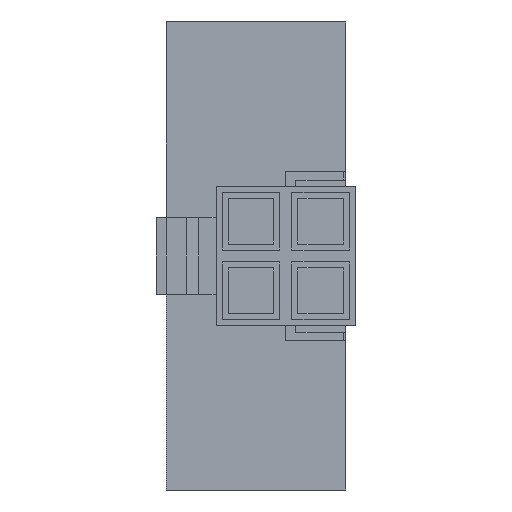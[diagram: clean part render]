
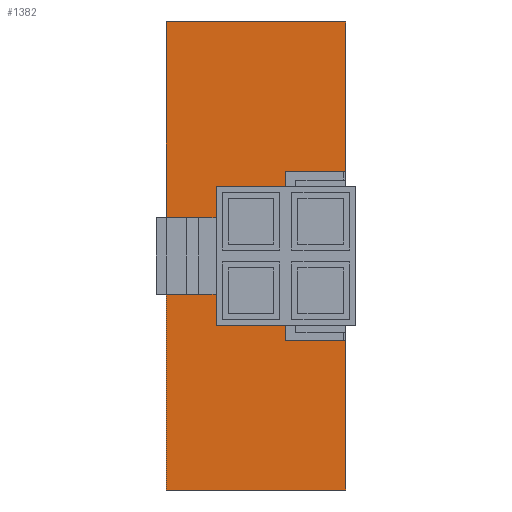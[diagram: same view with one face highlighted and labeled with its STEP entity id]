
A CAD part, left-side view. The second image highlights one B-rep face of the part: STEP entity #1382.
In plain terms, the highlighted planar face has unit normal (-1, 0, 0).
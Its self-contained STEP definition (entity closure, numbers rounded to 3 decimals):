
#67 = CARTESIAN_POINT ( 'NONE',  ( -20., 9., 11.75 ) ) ;
#141 = VERTEX_POINT ( 'NONE', #67 ) ;
#173 = CARTESIAN_POINT ( 'NONE',  ( -20., 9., 11.75 ) ) ;
#242 = CARTESIAN_POINT ( 'NONE',  ( -20., 0., 11.75 ) ) ;
#245 = AXIS2_PLACEMENT_3D ( 'NONE', #2573, #2232, #3637 ) ;
#259 = VERTEX_POINT ( 'NONE', #2790 ) ;
#264 = LINE ( 'NONE', #1260, #4285 ) ;
#268 = DIRECTION ( 'NONE',  ( 0., 0., 1. ) ) ;
#287 = CARTESIAN_POINT ( 'NONE',  ( -20., 0., 11.75 ) ) ;
#305 = VERTEX_POINT ( 'NONE', #3028 ) ;
#348 = ORIENTED_EDGE ( 'NONE', *, *, #2323, .T. ) ;
#437 = DIRECTION ( 'NONE',  ( 0., 0., -1. ) ) ;
#448 = EDGE_CURVE ( 'NONE', #3621, #2196, #2681, .T. ) ;
#583 = DIRECTION ( 'NONE',  ( 0., 0., 1. ) ) ;
#862 = DIRECTION ( 'NONE',  ( 0., 0., -1. ) ) ;
#896 = CARTESIAN_POINT ( 'NONE',  ( -20., 3., 4.25 ) ) ;
#968 = LINE ( 'NONE', #3743, #4184 ) ;
#1041 = VECTOR ( 'NONE', #2866, 1000. ) ;
#1046 = DIRECTION ( 'NONE',  ( 0., 0., -1. ) ) ;
#1055 = CARTESIAN_POINT ( 'NONE',  ( -20., 0., -11.75 ) ) ;
#1088 = VERTEX_POINT ( 'NONE', #896 ) ;
#1091 = AXIS2_PLACEMENT_3D ( 'NONE', #3461, #4138, #1046 ) ;
#1108 = EDGE_CURVE ( 'NONE', #1088, #2165, #264, .T. ) ;
#1232 = ORIENTED_EDGE ( 'NONE', *, *, #4086, .F. ) ;
#1260 = CARTESIAN_POINT ( 'NONE',  ( -20., 0.1, 4.25 ) ) ;
#1283 = DIRECTION ( 'NONE',  ( 0., 0., 1. ) ) ;
#1335 = ORIENTED_EDGE ( 'NONE', *, *, #3426, .T. ) ;
#1382 = ADVANCED_FACE ( 'NONE', ( #2260 ), #3235, .F. ) ;
#1388 = VECTOR ( 'NONE', #2722, 1000. ) ;
#1421 = ORIENTED_EDGE ( 'NONE', *, *, #2372, .F. ) ;
#1522 = LINE ( 'NONE', #1862, #2364 ) ;
#1537 = VECTOR ( 'NONE', #583, 1000. ) ;
#1628 = LINE ( 'NONE', #4012, #1537 ) ;
#1658 = ORIENTED_EDGE ( 'NONE', *, *, #1108, .T. ) ;
#1691 = CARTESIAN_POINT ( 'NONE',  ( -20., 9., -11.75 ) ) ;
#1815 = LINE ( 'NONE', #2894, #2211 ) ;
#1818 = EDGE_CURVE ( 'NONE', #305, #2196, #3570, .T. ) ;
#1829 = CARTESIAN_POINT ( 'NONE',  ( -20., 0., -4.25 ) ) ;
#1832 = VERTEX_POINT ( 'NONE', #3633 ) ;
#1862 = CARTESIAN_POINT ( 'NONE',  ( -20., 3., 4.25 ) ) ;
#1884 = VERTEX_POINT ( 'NONE', #3705 ) ;
#1937 = DIRECTION ( 'NONE',  ( 0., -1., 0. ) ) ;
#2165 = VERTEX_POINT ( 'NONE', #4222 ) ;
#2196 = VERTEX_POINT ( 'NONE', #1829 ) ;
#2198 = EDGE_CURVE ( 'NONE', #141, #3455, #3221, .T. ) ;
#2211 = VECTOR ( 'NONE', #862, 1000. ) ;
#2229 = CARTESIAN_POINT ( 'NONE',  ( -20., 0.1, -4.25 ) ) ;
#2232 = DIRECTION ( 'NONE',  ( 1., 0., 0. ) ) ;
#2260 = FACE_OUTER_BOUND ( 'NONE', #4386, .T. ) ;
#2323 = EDGE_CURVE ( 'NONE', #1832, #3621, #3358, .T. ) ;
#2364 = VECTOR ( 'NONE', #437, 1000. ) ;
#2372 = EDGE_CURVE ( 'NONE', #1832, #141, #1628, .T. ) ;
#2409 = VECTOR ( 'NONE', #2949, 1000. ) ;
#2573 = CARTESIAN_POINT ( 'NONE',  ( -20., 9., 11.75 ) ) ;
#2681 = LINE ( 'NONE', #242, #4053 ) ;
#2722 = DIRECTION ( 'NONE',  ( 0., -1., 0. ) ) ;
#2789 = EDGE_CURVE ( 'NONE', #259, #1884, #3976, .T. ) ;
#2790 = CARTESIAN_POINT ( 'NONE',  ( -20., 3., 2.018 ) ) ;
#2866 = DIRECTION ( 'NONE',  ( 0., -1., 0. ) ) ;
#2894 = CARTESIAN_POINT ( 'NONE',  ( -20., 3., 4.25 ) ) ;
#2949 = DIRECTION ( 'NONE',  ( 0., -1., 0. ) ) ;
#2952 = ORIENTED_EDGE ( 'NONE', *, *, #4104, .F. ) ;
#3028 = CARTESIAN_POINT ( 'NONE',  ( -20., 3., -4.25 ) ) ;
#3221 = LINE ( 'NONE', #173, #2409 ) ;
#3235 = PLANE ( 'NONE',  #245 ) ;
#3312 = ORIENTED_EDGE ( 'NONE', *, *, #448, .T. ) ;
#3358 = LINE ( 'NONE', #1691, #1388 ) ;
#3426 = EDGE_CURVE ( 'NONE', #2165, #3455, #968, .T. ) ;
#3455 = VERTEX_POINT ( 'NONE', #287 ) ;
#3461 = CARTESIAN_POINT ( 'NONE',  ( -20., 3., 0.018 ) ) ;
#3570 = LINE ( 'NONE', #2229, #1041 ) ;
#3621 = VERTEX_POINT ( 'NONE', #1055 ) ;
#3633 = CARTESIAN_POINT ( 'NONE',  ( -20., 9., -11.75 ) ) ;
#3637 = DIRECTION ( 'NONE',  ( 0., 0., -1. ) ) ;
#3705 = CARTESIAN_POINT ( 'NONE',  ( -20., 3., -1.982 ) ) ;
#3740 = ORIENTED_EDGE ( 'NONE', *, *, #1818, .F. ) ;
#3743 = CARTESIAN_POINT ( 'NONE',  ( -20., 0., 11.75 ) ) ;
#3976 = CIRCLE ( 'NONE', #1091, 2. ) ;
#4012 = CARTESIAN_POINT ( 'NONE',  ( -20., 9., 11.75 ) ) ;
#4053 = VECTOR ( 'NONE', #1283, 1000. ) ;
#4086 = EDGE_CURVE ( 'NONE', #1088, #259, #1522, .T. ) ;
#4104 = EDGE_CURVE ( 'NONE', #1884, #305, #1815, .T. ) ;
#4138 = DIRECTION ( 'NONE',  ( -1., 0., 0. ) ) ;
#4180 = ORIENTED_EDGE ( 'NONE', *, *, #2198, .F. ) ;
#4184 = VECTOR ( 'NONE', #268, 1000. ) ;
#4222 = CARTESIAN_POINT ( 'NONE',  ( -20., 0., 4.25 ) ) ;
#4285 = VECTOR ( 'NONE', #1937, 1000. ) ;
#4386 = EDGE_LOOP ( 'NONE', ( #2952, #4426, #1232, #1658, #1335, #4180, #1421, #348, #3312, #3740 ) ) ;
#4426 = ORIENTED_EDGE ( 'NONE', *, *, #2789, .F. ) ;
